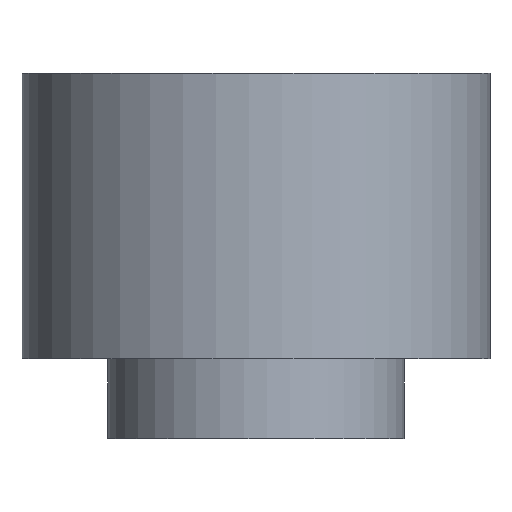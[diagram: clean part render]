
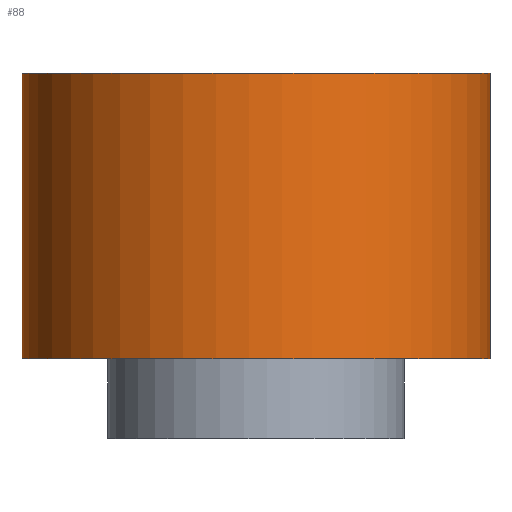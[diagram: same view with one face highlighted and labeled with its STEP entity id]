
A CAD part, front view. The second image highlights one B-rep face of the part: STEP entity #88.
In plain terms, the highlighted free-form (B-spline) face has degree [2, 1] with [7, 2] control points.
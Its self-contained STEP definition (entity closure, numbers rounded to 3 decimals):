
#69 = EDGE_CURVE('',#70,#70,#72,.T.);
#70 = VERTEX_POINT('',#71);
#71 = CARTESIAN_POINT('',(-4.1,0.,0.));
#72 = ( BOUNDED_CURVE() B_SPLINE_CURVE(2,(#73,#74,#75,#76,#77,#78,#79),
.UNSPECIFIED.,.T.,.F.) B_SPLINE_CURVE_WITH_KNOTS((1,2,2,2,2,1),(
    -2.094,0.,2.094,4.189,6.283,
8.378),.UNSPECIFIED.) CURVE() GEOMETRIC_REPRESENTATION_ITEM() 
RATIONAL_B_SPLINE_CURVE((1.,0.5,1.,0.5,1.,0.5,1.)) REPRESENTATION_ITEM(
  '') );
#73 = CARTESIAN_POINT('',(-4.1,0.,0.));
#74 = CARTESIAN_POINT('',(-4.1,7.101,0.));
#75 = CARTESIAN_POINT('',(2.05,3.551,0.));
#76 = CARTESIAN_POINT('',(8.2,0.,0.));
#77 = CARTESIAN_POINT('',(2.05,-3.551,0.));
#78 = CARTESIAN_POINT('',(-4.1,-7.101,0.));
#79 = CARTESIAN_POINT('',(-4.1,0.,0.));
#88 = ADVANCED_FACE('',(#89),#110,.T.);
#89 = FACE_BOUND('',#90,.T.);
#90 = EDGE_LOOP('',(#91,#103,#108,#109));
#91 = ORIENTED_EDGE('',*,*,#92,.T.);
#92 = EDGE_CURVE('',#93,#93,#95,.T.);
#93 = VERTEX_POINT('',#94);
#94 = CARTESIAN_POINT('',(-4.1,0.,5.));
#95 = ( BOUNDED_CURVE() B_SPLINE_CURVE(2,(#96,#97,#98,#99,#100,#101,#102
),.UNSPECIFIED.,.T.,.F.) B_SPLINE_CURVE_WITH_KNOTS((1,2,2,2,2,1),(
    -2.094,0.,2.094,4.189,6.283,
8.378),.UNSPECIFIED.) CURVE() GEOMETRIC_REPRESENTATION_ITEM() 
RATIONAL_B_SPLINE_CURVE((1.,0.5,1.,0.5,1.,0.5,1.)) REPRESENTATION_ITEM(
  '') );
#96 = CARTESIAN_POINT('',(-4.1,0.,5.));
#97 = CARTESIAN_POINT('',(-4.1,7.101,5.));
#98 = CARTESIAN_POINT('',(2.05,3.551,5.));
#99 = CARTESIAN_POINT('',(8.2,0.,5.));
#100 = CARTESIAN_POINT('',(2.05,-3.551,5.));
#101 = CARTESIAN_POINT('',(-4.1,-7.101,5.));
#102 = CARTESIAN_POINT('',(-4.1,0.,5.));
#103 = ORIENTED_EDGE('',*,*,#104,.F.);
#104 = EDGE_CURVE('',#70,#93,#105,.T.);
#105 = B_SPLINE_CURVE_WITH_KNOTS('',1,(#106,#107),.UNSPECIFIED.,.F.,.F.,
  (2,2),(0.,5.),.PIECEWISE_BEZIER_KNOTS.);
#106 = CARTESIAN_POINT('',(-4.1,0.,0.));
#107 = CARTESIAN_POINT('',(-4.1,0.,5.));
#108 = ORIENTED_EDGE('',*,*,#69,.F.);
#109 = ORIENTED_EDGE('',*,*,#104,.T.);
#110 = ( BOUNDED_SURFACE() B_SPLINE_SURFACE(2,1,(
    (#111,#112)
    ,(#113,#114)
    ,(#115,#116)
    ,(#117,#118)
    ,(#119,#120)
    ,(#121,#122)
,(#123,#124
    )),.UNSPECIFIED.,.T.,.F.,.F.) B_SPLINE_SURFACE_WITH_KNOTS((1,2,2,2,2
    ,1),(2,2),(-2.094,0.,2.094,4.189,
    6.283,8.378),(0.,5.),.UNSPECIFIED.) 
GEOMETRIC_REPRESENTATION_ITEM() RATIONAL_B_SPLINE_SURFACE((
    (1.,1.)
    ,(0.5,0.5)
    ,(1.,1.)
    ,(0.5,0.5)
    ,(1.,1.)
    ,(0.5,0.5)
,(1.,1.))) REPRESENTATION_ITEM('') SURFACE() );
#111 = CARTESIAN_POINT('',(-4.1,0.,0.));
#112 = CARTESIAN_POINT('',(-4.1,0.,5.));
#113 = CARTESIAN_POINT('',(-4.1,-7.101,0.));
#114 = CARTESIAN_POINT('',(-4.1,-7.101,5.));
#115 = CARTESIAN_POINT('',(2.05,-3.551,0.));
#116 = CARTESIAN_POINT('',(2.05,-3.551,5.));
#117 = CARTESIAN_POINT('',(8.2,0.,0.));
#118 = CARTESIAN_POINT('',(8.2,0.,5.));
#119 = CARTESIAN_POINT('',(2.05,3.551,0.));
#120 = CARTESIAN_POINT('',(2.05,3.551,5.));
#121 = CARTESIAN_POINT('',(-4.1,7.101,0.));
#122 = CARTESIAN_POINT('',(-4.1,7.101,5.));
#123 = CARTESIAN_POINT('',(-4.1,0.,0.));
#124 = CARTESIAN_POINT('',(-4.1,0.,5.));
